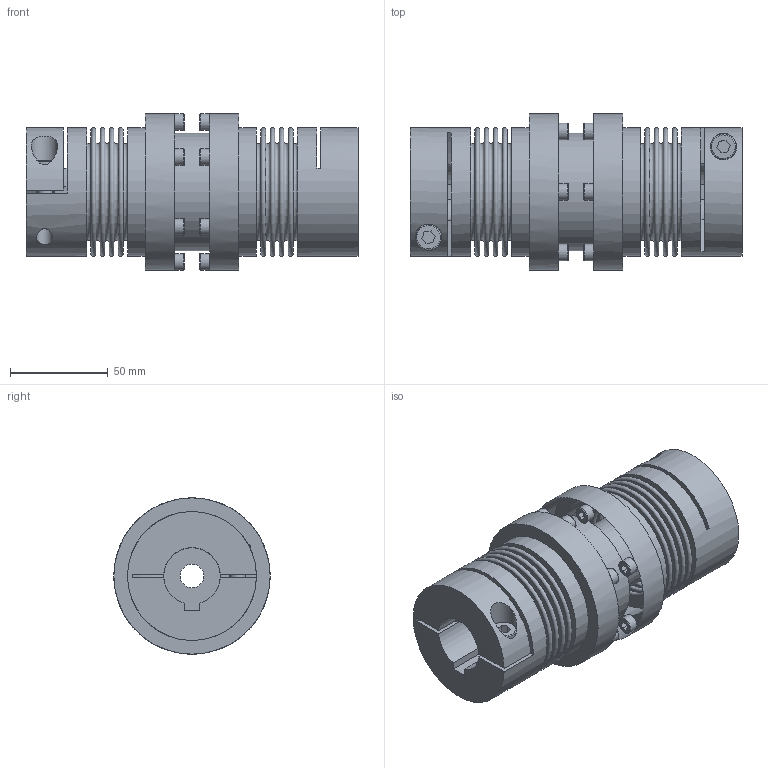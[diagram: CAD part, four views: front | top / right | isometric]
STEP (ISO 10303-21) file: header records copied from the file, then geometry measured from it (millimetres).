
FILE_DESCRIPTION(/* description */ ('STEP AP203'),/* implementation_level */ '2;1');
FILE_NAME(/* name */ 'C:\Diequa Files\DieQua Coupling\LB\STP\LB.60.L.#.#.stp',/* time_stamp */ '2019-05-02T10:18:51-05:00',/* author */ ('DiequaCAD'),/* organization */ (''),/* preprocessor_version */ 'ST-DEVELOPER v18',/* originating_system */ 'Autodesk Inventor 2020',/* authorisation */ ' ');
FILE_SCHEMA (('AUTOMOTIVE_DESIGN { 1 0 10303 214 3 1 1 }'));
Length unit declared in the file: millimetre
Products named in the file (1): ZA_60_29_PFN_29_PFN_2
Bounding box: 170 x 80 x 80 mm (x, y, z)
Volume: 434165.5 mm3; surface area: 107813.5 mm2
Topology: 1 solids, 1 shells, 242 faces, 648 edges, 458 vertices
Faces by surface type: plane 168, cylinder 40, torus 32, cone 2
Full cylindrical faces by diameter (mm): 8 x4, 8.5 x14, 12 x2, 13 x2, 13.5 x2, 37 x2, 48 x1, 60 x1, 66 x4, 80 x2
Entity records: 7997 total; most frequent: CARTESIAN_POINT 1517, DIRECTION 1424, ORIENTED_EDGE 1296, EDGE_CURVE 648, AXIS2_PLACEMENT_3D 543, VERTEX_POINT 458, LINE 338, VECTOR 338
